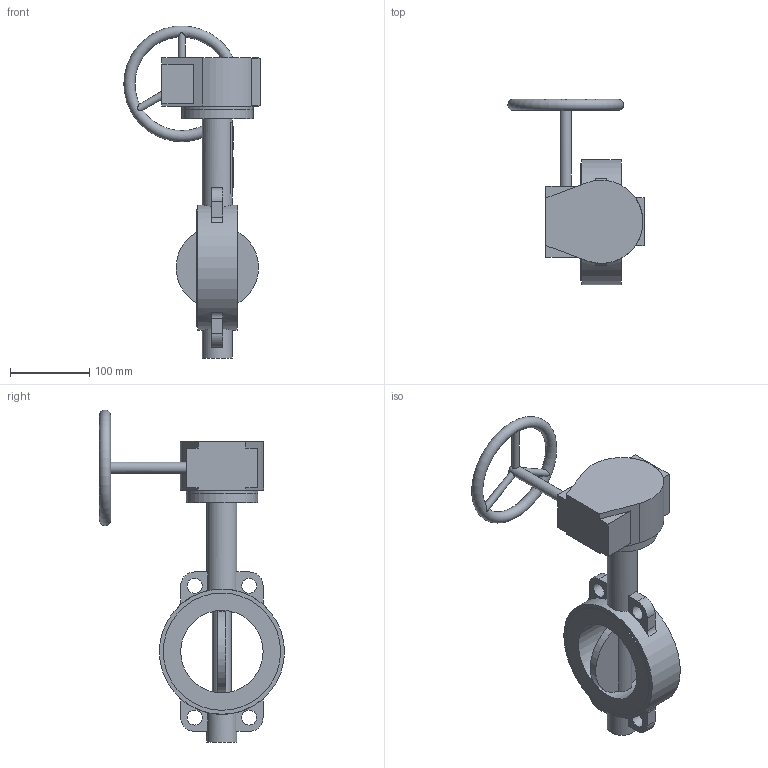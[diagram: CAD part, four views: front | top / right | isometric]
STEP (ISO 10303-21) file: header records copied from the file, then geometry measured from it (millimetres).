
FILE_DESCRIPTION(('STEP AP203'), '1');
FILE_NAME('Çàòâîð 017W.Z(÷óãóí) DN100 PN10_16 ðåäóêòîð', '', ('UNSPECIFIED'), ('UNSPECIFIED'), 'ASCON STEP Converter 1.6', 'ASCON Math Kernel', '');
FILE_SCHEMA(('CONFIG_CONTROL_DESIGN'));
Length unit declared in the file: millimetre
Bounding box: 172 x 233.5 x 418.97 mm (x, y, z)
Volume: 775614.2 mm3; surface area: 209453.8 mm2
Topology: 1 solids, 2 shells, 658 faces, 1912 edges, 1230 vertices
Faces by surface type: cylinder 464, plane 193, torus 1
Full cylindrical faces by diameter (mm): 6.7 x4, 9 x3, 10 x4, 14 x1, 15.9 x1, 19 x4, 24 x1, 38 x2, 55 x1, 90 x2, 104 x1, 148 x2, 158 x1
Entity records: 29074 total; most frequent: CARTESIAN_POINT 5575, DIRECTION 4161, ORIENTED_EDGE 3703, EDGE_CURVE 1883, AXIS2_PLACEMENT_3D 1641, VERTEX_POINT 1229, CIRCLE 982, LINE 879
